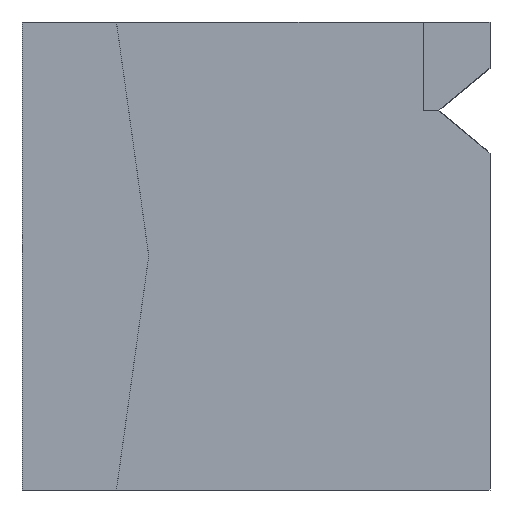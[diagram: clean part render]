
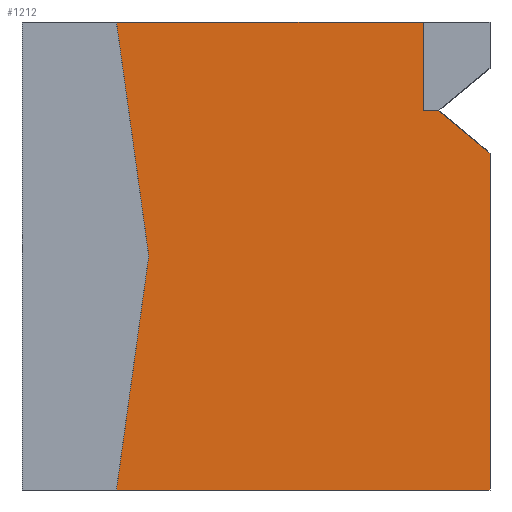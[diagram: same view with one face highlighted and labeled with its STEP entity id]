
A CAD part, left-side view. The second image highlights one B-rep face of the part: STEP entity #1212.
In plain terms, the highlighted planar face has unit normal (-1, 0, 0).
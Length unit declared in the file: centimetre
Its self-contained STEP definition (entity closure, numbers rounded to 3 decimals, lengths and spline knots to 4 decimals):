
#14 = CARTESIAN_POINT ( 'NONE',  ( 0., 0., 1000. ) ) ;
#62 = CARTESIAN_POINT ( 'NONE',  ( 0., 0., 719.8278 ) ) ;
#64 = LINE ( 'NONE', #496, #747 ) ;
#118 = VERTEX_POINT ( 'NONE', #829 ) ;
#139 = CARTESIAN_POINT ( 'NONE',  ( 0., 729.1493, 500. ) ) ;
#165 = DIRECTION ( 'NONE',  ( 0., -1., 0. ) ) ;
#175 = PLANE ( 'NONE',  #870 ) ;
#219 = EDGE_CURVE ( 'NONE', #968, #465, #64, .T. ) ;
#225 = ORIENTED_EDGE ( 'NONE', *, *, #1079, .F. ) ;
#229 = DIRECTION ( 'NONE',  ( 0., 0., -1. ) ) ;
#238 = ORIENTED_EDGE ( 'NONE', *, *, #343, .F. ) ;
#245 = ORIENTED_EDGE ( 'NONE', *, *, #219, .F. ) ;
#265 = LINE ( 'NONE', #285, #920 ) ;
#285 = CARTESIAN_POINT ( 'NONE',  ( 0., 1000., 0. ) ) ;
#309 = DIRECTION ( 'NONE',  ( 0., 0., -1. ) ) ;
#343 = EDGE_CURVE ( 'NONE', #1049, #1189, #1177, .T. ) ;
#395 = EDGE_LOOP ( 'NONE', ( #225, #752, #245, #782, #1382, #1256, #1112, #238 ) ) ;
#465 = VERTEX_POINT ( 'NONE', #139 ) ;
#496 = CARTESIAN_POINT ( 'NONE',  ( 0., 729.1493, 500. ) ) ;
#526 = VECTOR ( 'NONE', #1087, 100. ) ;
#633 = EDGE_CURVE ( 'NONE', #1167, #118, #1021, .T. ) ;
#646 = CARTESIAN_POINT ( 'NONE',  ( 0., 798.2103, 0. ) ) ;
#694 = CARTESIAN_POINT ( 'NONE',  ( 0., 1000., 1000. ) ) ;
#709 = LINE ( 'NONE', #1138, #1253 ) ;
#719 = CARTESIAN_POINT ( 'NONE',  ( 0., 109.3186, 810.6538 ) ) ;
#732 = CARTESIAN_POINT ( 'NONE',  ( 0., 798.2103, 1000. ) ) ;
#747 = VECTOR ( 'NONE', #924, 100. ) ;
#751 = DIRECTION ( 'NONE',  ( 0., 0.137, 0.991 ) ) ;
#752 = ORIENTED_EDGE ( 'NONE', *, *, #1264, .F. ) ;
#766 = VERTEX_POINT ( 'NONE', #1052 ) ;
#782 = ORIENTED_EDGE ( 'NONE', *, *, #1124, .T. ) ;
#802 = DIRECTION ( 'NONE',  ( 0., -1., 0. ) ) ;
#826 = FACE_OUTER_BOUND ( 'NONE', #395, .T. ) ;
#829 = CARTESIAN_POINT ( 'NONE',  ( 0., 0., 719.8278 ) ) ;
#870 = AXIS2_PLACEMENT_3D ( 'NONE', #1174, #1050, #309 ) ;
#880 = VECTOR ( 'NONE', #1319, 100. ) ;
#894 = VERTEX_POINT ( 'NONE', #1065 ) ;
#920 = VECTOR ( 'NONE', #165, 100. ) ;
#924 = DIRECTION ( 'NONE',  ( 0., -0.137, 0.991 ) ) ;
#934 = LINE ( 'NONE', #694, #962 ) ;
#952 = EDGE_CURVE ( 'NONE', #118, #894, #1203, .T. ) ;
#957 = LINE ( 'NONE', #732, #1271 ) ;
#962 = VECTOR ( 'NONE', #1123, 100. ) ;
#968 = VERTEX_POINT ( 'NONE', #646 ) ;
#1021 = LINE ( 'NONE', #62, #880 ) ;
#1049 = VERTEX_POINT ( 'NONE', #1241 ) ;
#1050 = DIRECTION ( 'NONE',  ( 1., 0., 0. ) ) ;
#1052 = CARTESIAN_POINT ( 'NONE',  ( 0., 798.2103, 1000. ) ) ;
#1062 = EDGE_CURVE ( 'NONE', #1189, #1167, #709, .T. ) ;
#1065 = CARTESIAN_POINT ( 'NONE',  ( 0., 0., 0. ) ) ;
#1079 = EDGE_CURVE ( 'NONE', #766, #1049, #934, .T. ) ;
#1087 = DIRECTION ( 'NONE',  ( 0., 0., -1. ) ) ;
#1112 = ORIENTED_EDGE ( 'NONE', *, *, #1062, .F. ) ;
#1123 = DIRECTION ( 'NONE',  ( 0., -1., 0. ) ) ;
#1124 = EDGE_CURVE ( 'NONE', #968, #894, #265, .T. ) ;
#1138 = CARTESIAN_POINT ( 'NONE',  ( 0., 0., 810.6538 ) ) ;
#1167 = VERTEX_POINT ( 'NONE', #719 ) ;
#1174 = CARTESIAN_POINT ( 'NONE',  ( 0., 1000., 1000. ) ) ;
#1177 = LINE ( 'NONE', #1273, #526 ) ;
#1189 = VERTEX_POINT ( 'NONE', #1351 ) ;
#1197 = VECTOR ( 'NONE', #229, 100. ) ;
#1203 = LINE ( 'NONE', #14, #1197 ) ;
#1212 = ADVANCED_FACE ( 'NONE', ( #826 ), #175, .F. ) ;
#1241 = CARTESIAN_POINT ( 'NONE',  ( 0., 142.3395, 1000. ) ) ;
#1253 = VECTOR ( 'NONE', #802, 100. ) ;
#1256 = ORIENTED_EDGE ( 'NONE', *, *, #633, .F. ) ;
#1264 = EDGE_CURVE ( 'NONE', #465, #766, #957, .T. ) ;
#1271 = VECTOR ( 'NONE', #751, 100. ) ;
#1273 = CARTESIAN_POINT ( 'NONE',  ( 0., 142.3395, 810.6538 ) ) ;
#1319 = DIRECTION ( 'NONE',  ( 0., -0.769, -0.639 ) ) ;
#1351 = CARTESIAN_POINT ( 'NONE',  ( 0., 142.3395, 810.6538 ) ) ;
#1382 = ORIENTED_EDGE ( 'NONE', *, *, #952, .F. ) ;
